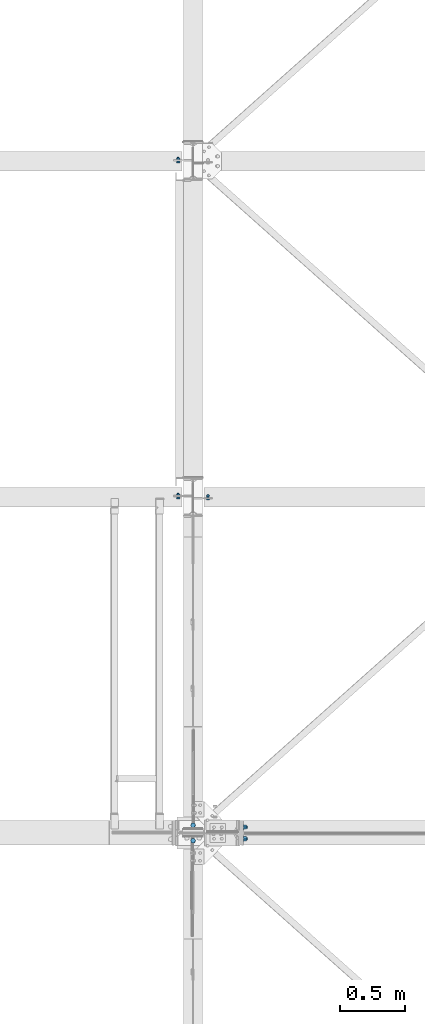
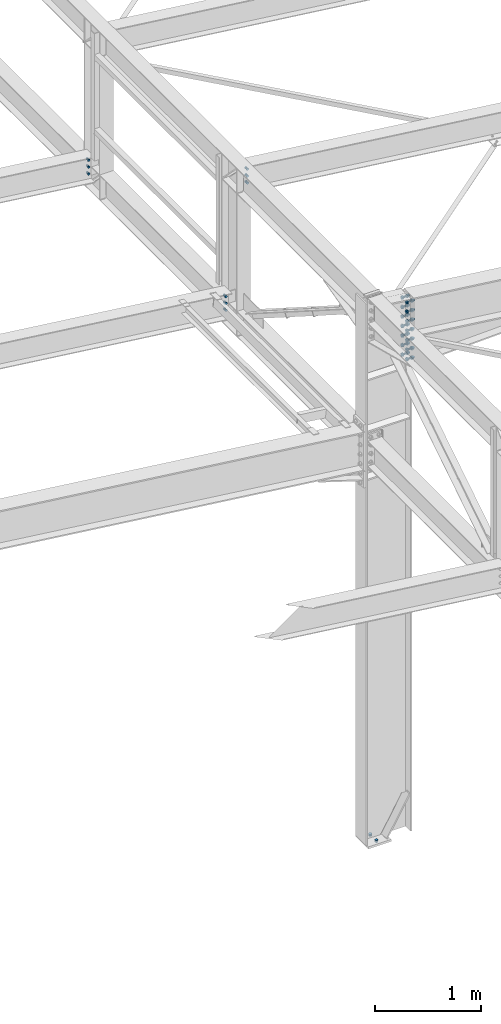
# One storey, part 262 of 3134: 5 mechanical fasteners, 5 elements without a shape of their own.
"""IFC2X3 building model written with IfcOpenShell, lengths in millimetres."""

import ifcopenshell
import ifcopenshell.guid

model = None  # the IFC model being written
_history = None  # IfcOwnerHistory: only IFC2X3 demands one
_inside = {}  # id of a spatial element -> (the spatial element, [elements in it])
_under = {}  # id of a project, library or spatial element -> (it, [spatial elements below it])
_declared = {}  # id of a project -> (the project, [libraries it declares])
_typed = {}  # id of a type object -> (the type object, [elements of that type])
_made_of = {}  # id of a material, layer set ... -> (it, [elements and type objects made of it])


def new_model(schema):
    """Start an empty IFC model of exactly this schema.

    Asked for "IFC4X3", IfcOpenShell would pick the latest addendum, in which some entities
    have other attributes; the version numbers below select the first issue.
    IFC2X3 requires an IfcOwnerHistory on every rooted entity: one is made here for all.
    """
    global model, _history
    if schema == "IFC4X3":
        model = ifcopenshell.file(schema_version=(4, 3, 0, 0))
    else:
        model = ifcopenshell.file(schema=schema)
    _inside.clear()
    _under.clear()
    _declared.clear()
    _typed.clear()
    _made_of.clear()
    _history = None
    if model.schema == "IFC2X3":
        org = make("IfcOrganization", Name="unknown")
        user = make(
            "IfcPersonAndOrganization",
            ThePerson=make("IfcPerson", FamilyName="unknown"),
            TheOrganization=org,
        )
        app = make(
            "IfcApplication",
            ApplicationDeveloper=org,
            Version="unknown",
            ApplicationFullName="unknown",
            ApplicationIdentifier="unknown",
        )
        _history = make(
            "IfcOwnerHistory",
            OwningUser=user,
            OwningApplication=app,
            ChangeAction="ADDED",
            CreationDate=0,
        )
    return model


def make(cls, **values):
    """One entity of the class cls with the attributes given. An attribute that is None is left unset."""
    return model.create_entity(
        cls, **{name: value for name, value in values.items() if value is not None}
    )


def rooted(cls, **values):
    """An entity with a GlobalId (a new one), such as an element, a storey or a relation."""
    return make(cls, GlobalId=ifcopenshell.guid.new(), OwnerHistory=_history, **values)


def si_unit(unit_type, name, prefix=None):
    """IfcSIUnit, for example si_unit("LENGTHUNIT", "METRE", prefix="MILLI")."""
    return make("IfcSIUnit", UnitType=unit_type, Prefix=prefix, Name=name)


def assignment(units):
    """IfcUnitAssignment: the units of a project."""
    return None if units is None else make("IfcUnitAssignment", Units=units)


def point(xyz):
    """IfcCartesianPoint."""
    return None if xyz is None else make("IfcCartesianPoint", Coordinates=xyz)


def direction(xyz):
    """IfcDirection."""
    return None if xyz is None else make("IfcDirection", DirectionRatios=xyz)


def frame(location, z_axis=None, x_axis=None):
    """IfcAxis2Placement3D, a coordinate frame: its origin and axes. An axis left out is left unset."""
    return make(
        "IfcAxis2Placement3D",
        Location=point(location),
        Axis=direction(z_axis),
        RefDirection=direction(x_axis),
    )


def origin_with_axes():
    """The frame at (0, 0, 0) with the z axis (0, 0, 1) and the x axis (1, 0, 0) written out."""
    return frame((0.0, 0.0, 0.0), z_axis=(0.0, 0.0, 1.0), x_axis=(1.0, 0.0, 0.0))


def place(relative_to, where):
    """IfcLocalPlacement: puts the frame where relative to a parent placement (None: the world)."""
    return make(
        "IfcLocalPlacement", PlacementRelTo=relative_to, RelativePlacement=where
    )


def context(
    kind, dimensions, precision=None, world=None, true_north=None, identifier=None
):
    """IfcGeometricRepresentationContext, for example the 3D "Model" context."""
    return make(
        "IfcGeometricRepresentationContext",
        ContextIdentifier=identifier,
        ContextType=kind,
        CoordinateSpaceDimension=dimensions,
        Precision=precision,
        WorldCoordinateSystem=world,
        TrueNorth=true_north,
    )


def subcontext(parent, identifier, kind, view, scale=None):
    """IfcGeometricRepresentationSubContext, for example "Body" below "Model"."""
    return make(
        "IfcGeometricRepresentationSubContext",
        ContextIdentifier=identifier,
        ContextType=kind,
        ParentContext=parent,
        TargetScale=scale,
        TargetView=view,
    )


def project(units=None, contexts=None):
    """IfcProject with its units and contexts."""
    return rooted(
        "IfcProject",
        Name="project",
        RepresentationContexts=contexts,
        UnitsInContext=assignment(units),
    )


def spatial(cls, under=None, at=None, **own):
    """A site, building, storey or space (cls), placed at a placement, below another one or the project."""
    s = rooted(cls, ObjectPlacement=at, **own)
    if under is not None:
        _under.setdefault(under.id(), (under, []))[1].append(s)
    return s


def faces_of(points, faces, orient=None, outer=None):
    """IfcFace entities. A face is a list of loops; a loop is a list of indices into points, from 0.

    orient and outer hold one flag for each loop. By default every Orientation is true, the
    first loop of a face is its IfcFaceOuterBound and the others are IfcFaceBound.
    """
    made = []
    for i, loops in enumerate(faces):
        bounds = []
        for j, loop in enumerate(loops):
            is_outer = j == 0 if outer is None else outer[i][j]
            bounds.append(
                make(
                    "IfcFaceOuterBound" if is_outer else "IfcFaceBound",
                    Bound=make("IfcPolyLoop", Polygon=[points[k] for k in loop]),
                    Orientation=True if orient is None else orient[i][j],
                )
            )
        made.append(make("IfcFace", Bounds=bounds))
    return made


def faceted_brep(points, faces, orient=None, outer=None, voids=None):
    """IfcFacetedBrep: a solid bounded by flat faces; with voids (closed shells), ...WithVoids."""
    shared = [point(p) for p in points]
    hull = make("IfcClosedShell", CfsFaces=faces_of(shared, faces, orient, outer))
    if voids is None:
        return make("IfcFacetedBrep", Outer=hull)
    return make(
        "IfcFacetedBrepWithVoids",
        Outer=hull,
        Voids=[
            make(cls, CfsFaces=faces_of(shared, fs, o, b)) for cls, fs, o, b in voids
        ],
    )


def shape(context_of_items, identifier, shape_type, items):
    """IfcShapeRepresentation: the items that make up one representation, for example the "Body"."""
    return make(
        "IfcShapeRepresentation",
        ContextOfItems=context_of_items,
        RepresentationIdentifier=identifier,
        RepresentationType=shape_type,
        Items=items,
    )


def source(mapping_origin, context_of_items, identifier, shape_type, items):
    """IfcRepresentationMap: a shape defined once, which mapped items show again and again."""
    return make(
        "IfcRepresentationMap",
        MappingOrigin=mapping_origin,
        MappedRepresentation=shape(context_of_items, identifier, shape_type, items),
    )


def transform(
    local_origin,
    x_axis=None,
    y_axis=None,
    z_axis=None,
    scale=None,
    scale2=None,
    scale3=None,
    uniform=True,
):
    """IfcCartesianTransformationOperator3D, or its non-uniform kind. x_axis, y_axis, z_axis: its Axis1, 2, 3."""
    if uniform:
        return make(
            "IfcCartesianTransformationOperator3D",
            Axis1=direction(x_axis),
            Axis2=direction(y_axis),
            LocalOrigin=point(local_origin),
            Scale=scale,
            Axis3=direction(z_axis),
        )
    return make(
        "IfcCartesianTransformationOperator3DnonUniform",
        Axis1=direction(x_axis),
        Axis2=direction(y_axis),
        LocalOrigin=point(local_origin),
        Scale=scale,
        Axis3=direction(z_axis),
        Scale2=scale2,
        Scale3=scale3,
    )


def mapped(mapping_source, mapping_target):
    """IfcMappedItem: shows the shape of a source again, moved by a transform."""
    return make(
        "IfcMappedItem", MappingSource=mapping_source, MappingTarget=mapping_target
    )


def material(Name=None, Category=None):
    """IfcMaterial."""
    return make("IfcMaterial", Name=Name, Category=Category)


def made_of(thing, what):
    """Note that an element or type object is made of a material, layer set ...; save() writes the relation."""
    if what is not None:
        _made_of.setdefault(what.id(), (what, []))[1].append(thing)
    return thing


def type_object(cls, material=None, **own):
    """A type object (cls), such as IfcWallType, which elements share."""
    return made_of(rooted(cls, **own), material)


def element(
    cls,
    number,
    at=None,
    inside=None,
    cuts=None,
    type_object=None,
    material=None,
    context=None,
    identifier="Body",
    shape_type=None,
    held_by="IfcProductDefinitionShape",
    body=None,
    shapes=None,
    **own,
):
    """One element of the class cls, such as IfcWall. Its Tag is "e" and its number.

    at: its placement. inside: the storey or other place that contains it. cuts: it is an
    opening in that element (IfcRelVoidsElement). A single representation is given by context,
    identifier, shape_type and body (its items); several are given by shapes. held_by: the class
    of the entity that holds the representations. save() writes the other relations.
    """
    e = rooted(cls, Tag="e%d" % number, ObjectPlacement=at, **own)
    if body is not None:
        shapes = [shape(context, identifier, shape_type, body)]
    if shapes is not None:
        e.Representation = make(held_by, Representations=shapes)
    if inside is not None:
        _inside.setdefault(inside.id(), (inside, []))[1].append(e)
    if cuts is not None:
        rooted(
            "IfcRelVoidsElement", RelatingBuildingElement=cuts, RelatedOpeningElement=e
        )
    if type_object is not None:
        _typed.setdefault(type_object.id(), (type_object, []))[1].append(e)
    return made_of(e, material)


def aggregate(whole, parts):
    """IfcRelAggregates: a whole, such as a stair, and the parts it consists of."""
    return rooted("IfcRelAggregates", RelatingObject=whole, RelatedObjects=parts)


def save(model, path):
    """Write the relations noted so far, then the file.

    IfcRelAggregates (storeys below a building ...), IfcRelContainedInSpatialStructure (elements
    in a storey), IfcRelDefinesByType, IfcRelAssociatesMaterial and IfcRelDeclares: one each for
    every whole, place, type object, material and project.
    """
    for whole, parts in _under.values():
        aggregate(whole, parts)
    for where, things in _inside.values():
        rooted(
            "IfcRelContainedInSpatialStructure",
            RelatedElements=things,
            RelatingStructure=where,
        )
    for kind, things in _typed.values():
        rooted("IfcRelDefinesByType", RelatedObjects=things, RelatingType=kind)
    for what, things in _made_of.values():
        rooted("IfcRelAssociatesMaterial", RelatedObjects=things, RelatingMaterial=what)
    for by, libraries in _declared.values():
        rooted("IfcRelDeclares", RelatingContext=by, RelatedDefinitions=libraries)
    model.write(path)


model = new_model("IFC2X3")

# Units and contexts
model_context = context("Model", 3, precision=1e-05, world=origin_with_axes())
body_context = subcontext(model_context, "Body", "Model", "MODEL_VIEW")
ifc_project = project(units=[si_unit("LENGTHUNIT", "METRE", prefix="MILLI"), si_unit("AREAUNIT", "SQUARE_METRE"), si_unit("VOLUMEUNIT", "CUBIC_METRE"), si_unit("MASSUNIT", "GRAM", prefix="KILO"), si_unit("TIMEUNIT", "SECOND"), si_unit("PLANEANGLEUNIT", "RADIAN"), si_unit("SOLIDANGLEUNIT", "STERADIAN"), si_unit("THERMODYNAMICTEMPERATUREUNIT", "DEGREE_CELSIUS"), si_unit("LUMINOUSINTENSITYUNIT", "LUMEN")], contexts=[model_context])

# Site, building, storey
site_placement = place(None, origin_with_axes())
site = spatial("IfcSite", under=ifc_project, at=site_placement, CompositionType="ELEMENT")
building_placement = place(site_placement, origin_with_axes())
building = spatial("IfcBuilding", under=site, at=building_placement, Name="Undefined", CompositionType="ELEMENT")
storey_placement = place(building_placement, origin_with_axes())
storey = spatial("IfcBuildingStorey", under=building, at=storey_placement, Name="Undefined", CompositionType="ELEMENT", Elevation=0.0)

# Assembly, mechanical fastener
assembly_1_placement = place(storey_placement, origin_with_axes())
assembly_1 = element("IfcElementAssembly", 1, at=assembly_1_placement, inside=storey, Name="IPE450", AssemblyPlace="NOTDEFINED", PredefinedType="RIGID_FRAME")
ifc_material_1 = material(Name="HR10.9")
mechanical_fastener_type = type_object("IfcMechanicalFastenerType", Name="Bolt assembly")
shared_shape_1 = source(origin_with_axes(), body_context, "Body", "Brep", [
    faceted_brep([(18.475208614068, -33.599999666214, 0.0), (9.23760430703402, -33.599999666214, 16.0), (-9.23760430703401, -33.599999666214, 16.0), (-18.475208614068, -33.599999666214, 2.2625605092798e-15), (-9.23760430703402, -33.599999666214, -16.0), (9.237604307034, -33.599999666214, -16.0), (9.237604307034, -19.7000000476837, -16.0), (-9.23760430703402, -19.7000000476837, -16.0), (-18.475208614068, -19.7000000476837, 2.2625605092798e-15), (-9.23760430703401, -19.7000000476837, 16.0), (9.23760430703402, -19.7000000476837, 16.0), (18.475208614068, -19.7000000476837, 0.0), (10.0, -19.7000000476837, 0.0), (8.66025403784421, -19.7000000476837, 5.0000000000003), (4.9999999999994, -19.7000000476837, 8.66025403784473), (-1.03633598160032e-12, -19.7000000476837, 10.0), (-5.00000000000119, -19.7000000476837, 8.6602540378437), (-8.66025403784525, -19.7000000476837, 4.99999999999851), (-10.0, -19.7000000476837, -2.07267196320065e-12), (-8.66025403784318, -19.7000000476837, -5.00000000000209), (-4.99999999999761, -19.7000000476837, -8.66025403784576), (3.09790571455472e-12, -19.7000000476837, -10.0), (5.00000000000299, -19.7000000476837, -8.66025403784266), (8.66025403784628, -19.7000000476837, -4.99999999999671), (8.66025403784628, 55.2999999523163, -4.99999999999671), (5.00000000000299, 55.2999999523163, -8.66025403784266), (3.09790571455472e-12, 55.2999999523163, -10.0), (-4.99999999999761, 55.2999999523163, -8.66025403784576), (-8.66025403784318, 55.2999999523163, -5.00000000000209), (-10.0, 55.2999999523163, -2.07267196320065e-12), (-8.66025403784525, 55.2999999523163, 4.99999999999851), (-5.00000000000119, 55.2999999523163, 8.6602540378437), (-1.03633598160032e-12, 55.2999999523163, 10.0), (4.9999999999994, 55.2999999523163, 8.66025403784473), (8.66025403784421, 55.2999999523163, 5.0000000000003), (10.0, 55.2999999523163, 0.0), (22.0, -19.7000000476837, 0.0), (19.0525588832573, -19.7000000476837, 11.0000000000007), (10.9999999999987, -19.7000000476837, 19.0525588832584), (-2.27993915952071e-12, -19.7000000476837, 22.0), (-11.0000000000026, -19.7000000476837, 19.0525588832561), (-19.0525588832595, -19.7000000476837, 10.9999999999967), (-22.0, -19.7000000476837, -4.55987831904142e-12), (-19.052558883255, -19.7000000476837, -11.0000000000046), (-10.9999999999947, -19.7000000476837, -19.0525588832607), (6.81539257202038e-12, -19.7000000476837, -22.0), (11.0000000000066, -19.7000000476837, -19.0525588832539), (19.0525588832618, -19.7000000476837, -10.9999999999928), (19.0525588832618, -16.0, -10.9999999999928), (11.0000000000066, -16.0, -19.0525588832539), (6.81539257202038e-12, -16.0, -22.0), (-10.9999999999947, -16.0, -19.0525588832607), (-19.052558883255, -16.0, -11.0000000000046), (-22.0, -16.0, -4.55987831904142e-12), (-19.0525588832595, -16.0, 10.9999999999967), (-11.0000000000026, -16.0, 19.0525588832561), (-2.27993915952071e-12, -16.0, 22.0), (10.9999999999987, -16.0, 19.0525588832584), (19.0525588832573, -16.0, 11.0000000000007), (22.0, -16.0, 0.0), (22.0, 25.0, 0.0), (19.0525588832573, 25.0, 11.0000000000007), (10.9999999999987, 25.0, 19.0525588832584), (-2.27993915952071e-12, 25.0, 22.0), (-11.0000000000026, 25.0, 19.0525588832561), (-19.0525588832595, 25.0, 10.9999999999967), (-22.0, 25.0, -4.55987831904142e-12), (-19.052558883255, 25.0, -11.0000000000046), (-10.9999999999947, 25.0, -19.0525588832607), (6.81539257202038e-12, 25.0, -22.0), (11.0000000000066, 25.0, -19.0525588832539), (19.0525588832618, 25.0, -10.9999999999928), (19.0525588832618, 28.7000000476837, -10.9999999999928), (11.0000000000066, 28.7000000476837, -19.0525588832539), (6.81539257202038e-12, 28.7000000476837, -22.0), (-10.9999999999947, 28.7000000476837, -19.0525588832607), (-19.052558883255, 28.7000000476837, -11.0000000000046), (-22.0, 28.7000000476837, -4.55987831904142e-12), (-19.0525588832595, 28.7000000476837, 10.9999999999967), (-11.0000000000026, 28.7000000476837, 19.0525588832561), (-2.27993915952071e-12, 28.7000000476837, 22.0), (10.9999999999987, 28.7000000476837, 19.0525588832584), (19.0525588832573, 28.7000000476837, 11.0000000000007), (22.0, 28.7000000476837, 0.0), (18.475208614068, 28.7000000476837, 0.0), (9.23760430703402, 28.7000000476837, 16.0), (-9.23760430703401, 28.7000000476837, 16.0), (-18.475208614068, 28.7000000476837, 2.2625605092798e-15), (-9.23760430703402, 28.7000000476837, -16.0), (9.237604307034, 28.7000000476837, -16.0), (9.237604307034, 47.2499992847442, -16.0), (-9.23760430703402, 47.2499992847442, -16.0), (-18.475208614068, 47.2499992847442, 2.2625605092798e-15), (-9.23760430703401, 47.2499992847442, 16.0), (9.23760430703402, 47.2499992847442, 16.0), (18.475208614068, 47.2499992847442, 0.0)], [[[0, 1, 2, 3, 4, 5]], [[6, 7, 8, 9, 10, 11]], [[0, 11, 10, 1]], [[1, 10, 9, 2]], [[2, 9, 8, 3]], [[3, 8, 7, 4]], [[4, 7, 6, 5]], [[5, 6, 11, 0]], [[12, 13, 14, 15, 16, 17, 18, 19, 20, 21, 22, 23]], [[24, 25, 26, 27, 28, 29, 30, 31, 32, 33, 34, 35]], [[12, 35, 34, 13]], [[13, 34, 33, 14]], [[14, 33, 32, 15]], [[15, 32, 31, 16]], [[16, 31, 30, 17]], [[17, 30, 29, 18]], [[18, 29, 28, 19]], [[19, 28, 27, 20]], [[20, 27, 26, 21]], [[21, 26, 25, 22]], [[22, 25, 24, 23]], [[23, 24, 35, 12]], [[36, 37, 38, 39, 40, 41, 42, 43, 44, 45, 46, 47]], [[48, 49, 50, 51, 52, 53, 54, 55, 56, 57, 58, 59]], [[36, 59, 58, 37]], [[37, 58, 57, 38]], [[38, 57, 56, 39]], [[39, 56, 55, 40]], [[40, 55, 54, 41]], [[41, 54, 53, 42]], [[42, 53, 52, 43]], [[43, 52, 51, 44]], [[44, 51, 50, 45]], [[45, 50, 49, 46]], [[46, 49, 48, 47]], [[47, 48, 59, 36]], [[60, 61, 62, 63, 64, 65, 66, 67, 68, 69, 70, 71]], [[72, 73, 74, 75, 76, 77, 78, 79, 80, 81, 82, 83]], [[60, 83, 82, 61]], [[61, 82, 81, 62]], [[62, 81, 80, 63]], [[63, 80, 79, 64]], [[64, 79, 78, 65]], [[65, 78, 77, 66]], [[66, 77, 76, 67]], [[67, 76, 75, 68]], [[68, 75, 74, 69]], [[69, 74, 73, 70]], [[70, 73, 72, 71]], [[71, 72, 83, 60]], [[84, 85, 86, 87, 88, 89]], [[90, 91, 92, 93, 94, 95]], [[84, 95, 94, 85]], [[85, 94, 93, 86]], [[86, 93, 92, 87]], [[87, 92, 91, 88]], [[88, 91, 90, 89]], [[89, 90, 95, 84]]]),
    faceted_brep([(11.0, -15.9, 0.0), (9.52627944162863, -15.9, 5.50000000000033), (5.49999999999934, -15.9, 9.5262794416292), (-1.13996957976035e-12, -15.9, 11.0), (-5.50000000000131, -15.9, 9.52627944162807), (-9.52627944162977, -15.9, 5.49999999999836), (-11.0, -15.9, -2.27993915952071e-12), (-9.5262794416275, -15.9, -5.5000000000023), (-5.49999999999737, -15.9, -9.52627944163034), (3.40769628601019e-12, -15.9, -11.0), (5.50000000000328, -15.9, -9.52627944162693), (9.52627944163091, -15.9, -5.49999999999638), (9.52627944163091, 0.0999999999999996, -5.49999999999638), (5.50000000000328, 0.0999999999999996, -9.52627944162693), (3.40769628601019e-12, 0.0999999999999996, -11.0), (-5.49999999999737, 0.0999999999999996, -9.52627944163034), (-9.5262794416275, 0.0999999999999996, -5.5000000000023), (-11.0, 0.0999999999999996, -2.27993915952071e-12), (-9.52627944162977, 0.0999999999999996, 5.49999999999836), (-5.50000000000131, 0.0999999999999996, 9.52627944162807), (-1.13996957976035e-12, 0.0999999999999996, 11.0), (5.49999999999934, 0.0999999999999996, 9.5262794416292), (9.52627944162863, 0.0999999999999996, 5.50000000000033), (11.0, 0.0999999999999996, 0.0), (11.0, -0.1, 0.0), (9.52627944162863, -0.1, 5.50000000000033), (5.49999999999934, -0.1, 9.5262794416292), (-1.13996957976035e-12, -0.1, 11.0), (-5.50000000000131, -0.1, 9.52627944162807), (-9.52627944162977, -0.1, 5.49999999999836), (-11.0, -0.1, -2.27993915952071e-12), (-9.5262794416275, -0.1, -5.5000000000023), (-5.49999999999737, -0.1, -9.52627944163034), (3.40769628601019e-12, -0.1, -11.0), (5.50000000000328, -0.1, -9.52627944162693), (9.52627944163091, -0.1, -5.49999999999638), (9.52627944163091, 25.0, -5.49999999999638), (5.50000000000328, 25.0, -9.52627944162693), (3.40769628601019e-12, 25.0, -11.0), (-5.49999999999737, 25.0, -9.52627944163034), (-9.5262794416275, 25.0, -5.5000000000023), (-11.0, 25.0, -2.27993915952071e-12), (-9.52627944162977, 25.0, 5.49999999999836), (-5.50000000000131, 25.0, 9.52627944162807), (-1.13996957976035e-12, 25.0, 11.0), (5.49999999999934, 25.0, 9.5262794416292), (9.52627944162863, 25.0, 5.50000000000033), (11.0, 25.0, 0.0)], [[[0, 1, 2, 3, 4, 5, 6, 7, 8, 9, 10, 11]], [[12, 13, 14, 15, 16, 17, 18, 19, 20, 21, 22, 23]], [[0, 23, 22, 1]], [[1, 22, 21, 2]], [[2, 21, 20, 3]], [[3, 20, 19, 4]], [[4, 19, 18, 5]], [[5, 18, 17, 6]], [[6, 17, 16, 7]], [[7, 16, 15, 8]], [[8, 15, 14, 9]], [[9, 14, 13, 10]], [[10, 13, 12, 11]], [[11, 12, 23, 0]], [[24, 25, 26, 27, 28, 29, 30, 31, 32, 33, 34, 35]], [[36, 37, 38, 39, 40, 41, 42, 43, 44, 45, 46, 47]], [[24, 47, 46, 25]], [[25, 46, 45, 26]], [[26, 45, 44, 27]], [[27, 44, 43, 28]], [[28, 43, 42, 29]], [[29, 42, 41, 30]], [[30, 41, 40, 31]], [[31, 40, 39, 32]], [[32, 39, 38, 33]], [[33, 38, 37, 34]], [[34, 37, 36, 35]], [[35, 36, 47, 24]]]),
])
mechanical_fastener_1_placement = place(assembly_1_placement, frame((56240.0, 40250.0, 5711.36541521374), z_axis=(0.0, -1.0, 0.0), x_axis=(0.0, 0.0, -1.0)))
mechanical_fastener_1 = element("IfcMechanicalFastener", 2, at=mechanical_fastener_1_placement, type_object=mechanical_fastener_type, material=ifc_material_1, Name="Bolt assembly", NominalDiameter=20.0, NominalLength=75.0, context=body_context, shape_type="MappedRepresentation", body=[
    mapped(shared_shape_1, transform((0.0, 0.0, -45.0))),
    mapped(shared_shape_1, transform((0.0, 0.0, 45.0))),
    mapped(shared_shape_1, transform((110.0, 0.0, -45.0))),
    mapped(shared_shape_1, transform((110.0, 0.0, 45.0))),
    mapped(shared_shape_1, transform((220.0, 0.0, -45.0))),
    mapped(shared_shape_1, transform((220.0, 0.0, 45.0))),
    mapped(shared_shape_1, transform((330.0, 0.0, -45.0))),
    mapped(shared_shape_1, transform((330.0, 0.0, 45.0))),
    mapped(shared_shape_1, transform((440.0, 0.0, -45.0))),
    mapped(shared_shape_1, transform((440.0, 0.0, 45.0))),
    mapped(shared_shape_1, transform((550.0, 0.0, -45.0))),
    mapped(shared_shape_1, transform((550.0, 0.0, 45.0))),
    mapped(shared_shape_1, transform((660.0, 0.0, -45.0))),
    mapped(shared_shape_1, transform((660.0, 0.0, 45.0))),
])
aggregate(assembly_1, [mechanical_fastener_1])

assembly_2_placement = place(storey_placement, origin_with_axes())
assembly_2 = element("IfcElementAssembly", 3, at=assembly_2_placement, inside=storey, Name="300", AssemblyPlace="NOTDEFINED", PredefinedType="RIGID_FRAME")
ifc_material_2 = material(Name="8.8")
shared_shape_2 = source(origin_with_axes(), body_context, "Body", "Brep", [
    faceted_brep([(13.856406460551, -13.0499999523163, 0.0), (6.92820323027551, -13.0499999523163, 12.0), (-6.92820323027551, -13.0499999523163, 12.0), (-13.856406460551, -13.0499999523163, 1.69692038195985e-15), (-6.92820323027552, -13.0499999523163, -12.0), (6.9282032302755, -13.0499999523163, -12.0), (6.9282032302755, -3.04999995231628, -12.0), (-6.92820323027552, -3.04999995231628, -12.0), (-13.856406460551, -3.04999995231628, 1.69692038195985e-15), (-6.92820323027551, -3.04999995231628, 12.0), (6.92820323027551, -3.04999995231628, 12.0), (13.856406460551, -3.04999995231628, 0.0), (8.0, -3.04999995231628, 0.0), (6.92820323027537, -3.04999995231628, 4.00000000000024), (3.99999999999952, -3.04999995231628, 6.92820323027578), (-8.29068785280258e-13, -3.04999995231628, 8.0), (-4.00000000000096, -3.04999995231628, 6.92820323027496), (-6.9282032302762, -3.04999995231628, 3.99999999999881), (-8.0, -3.04999995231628, -1.65813757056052e-12), (-6.92820323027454, -3.04999995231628, -4.00000000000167), (-3.99999999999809, -3.04999995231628, -6.92820323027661), (2.47832457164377e-12, -3.04999995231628, -8.0), (4.00000000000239, -3.04999995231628, -6.92820323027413), (6.92820323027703, -3.04999995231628, -3.99999999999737), (6.92820323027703, 31.9500000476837, -3.99999999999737), (4.00000000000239, 31.9500000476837, -6.92820323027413), (2.47832457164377e-12, 31.9500000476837, -8.0), (-3.99999999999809, 31.9500000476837, -6.92820323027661), (-6.92820323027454, 31.9500000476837, -4.00000000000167), (-8.0, 31.9500000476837, -1.65813757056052e-12), (-6.9282032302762, 31.9500000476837, 3.99999999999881), (-4.00000000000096, 31.9500000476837, 6.92820323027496), (-8.29068785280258e-13, 31.9500000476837, 8.0), (3.99999999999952, 31.9500000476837, 6.92820323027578), (6.92820323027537, 31.9500000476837, 4.00000000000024), (8.0, 31.9500000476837, 0.0), (13.856406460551, 13.0500000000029, 0.0), (6.92820323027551, 13.0500000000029, 12.0), (-6.92820323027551, 13.0500000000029, 12.0), (-13.856406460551, 13.0500000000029, 1.69692038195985e-15), (-6.92820323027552, 13.0500000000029, -12.0), (6.9282032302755, 13.0500000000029, -12.0), (6.9282032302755, 26.0500000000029, -12.0), (-6.92820323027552, 26.0500000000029, -12.0), (-13.856406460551, 26.0500000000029, 1.69692038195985e-15), (-6.92820323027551, 26.0500000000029, 12.0), (6.92820323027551, 26.0500000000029, 12.0), (13.856406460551, 26.0500000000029, 0.0)], [[[0, 1, 2, 3, 4, 5]], [[6, 7, 8, 9, 10, 11]], [[0, 11, 10, 1]], [[1, 10, 9, 2]], [[2, 9, 8, 3]], [[3, 8, 7, 4]], [[4, 7, 6, 5]], [[5, 6, 11, 0]], [[12, 13, 14, 15, 16, 17, 18, 19, 20, 21, 22, 23]], [[24, 25, 26, 27, 28, 29, 30, 31, 32, 33, 34, 35]], [[12, 35, 34, 13]], [[13, 34, 33, 14]], [[14, 33, 32, 15]], [[15, 32, 31, 16]], [[16, 31, 30, 17]], [[17, 30, 29, 18]], [[18, 29, 28, 19]], [[19, 28, 27, 20]], [[20, 27, 26, 21]], [[21, 26, 25, 22]], [[22, 25, 24, 23]], [[23, 24, 35, 12]], [[36, 37, 38, 39, 40, 41]], [[42, 43, 44, 45, 46, 47]], [[36, 47, 46, 37]], [[37, 46, 45, 38]], [[38, 45, 44, 39]], [[39, 44, 43, 40]], [[40, 43, 42, 41]], [[41, 42, 47, 36]]]),
    faceted_brep([(9.0, 2.95000000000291, 0.0), (7.79422863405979, 2.95000000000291, 4.50000000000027), (4.49999999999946, 2.95000000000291, 7.79422863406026), (-9.3270238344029e-13, 2.95000000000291, 9.0), (-4.50000000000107, 2.95000000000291, 7.79422863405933), (-7.79422863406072, 2.95000000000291, 4.49999999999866), (-9.0, 2.95000000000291, -1.86540476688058e-12), (-7.79422863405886, 2.95000000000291, -4.50000000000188), (-4.49999999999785, 2.95000000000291, -7.79422863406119), (2.78811514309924e-12, 2.95000000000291, -9.0), (4.50000000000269, 2.95000000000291, -7.7942286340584), (7.79422863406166, 2.95000000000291, -4.49999999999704), (7.79422863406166, 13.0500000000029, -4.49999999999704), (4.50000000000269, 13.0500000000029, -7.7942286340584), (2.78811514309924e-12, 13.0500000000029, -9.0), (-4.49999999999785, 13.0500000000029, -7.79422863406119), (-7.79422863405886, 13.0500000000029, -4.50000000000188), (-9.0, 13.0500000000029, -1.86540476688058e-12), (-7.79422863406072, 13.0500000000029, 4.49999999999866), (-4.50000000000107, 13.0500000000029, 7.79422863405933), (-9.3270238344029e-13, 13.0500000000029, 9.0), (4.49999999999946, 13.0500000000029, 7.79422863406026), (7.79422863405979, 13.0500000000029, 4.50000000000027), (9.0, 13.0500000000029, 0.0), (9.0, -2.94999995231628, 0.0), (7.79422863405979, -2.94999995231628, 4.50000000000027), (4.49999999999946, -2.94999995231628, 7.79422863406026), (-9.3270238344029e-13, -2.94999995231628, 9.0), (-4.50000000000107, -2.94999995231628, 7.79422863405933), (-7.79422863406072, -2.94999995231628, 4.49999999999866), (-9.0, -2.94999995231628, -1.86540476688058e-12), (-7.79422863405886, -2.94999995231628, -4.50000000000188), (-4.49999999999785, -2.94999995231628, -7.79422863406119), (2.78811514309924e-12, -2.94999995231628, -9.0), (4.50000000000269, -2.94999995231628, -7.7942286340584), (7.79422863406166, -2.94999995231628, -4.49999999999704), (7.79422863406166, 3.14999995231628, -4.49999999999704), (4.50000000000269, 3.14999995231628, -7.7942286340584), (2.78811514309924e-12, 3.14999995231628, -9.0), (-4.49999999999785, 3.14999995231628, -7.79422863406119), (-7.79422863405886, 3.14999995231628, -4.50000000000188), (-9.0, 3.14999995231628, -1.86540476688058e-12), (-7.79422863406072, 3.14999995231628, 4.49999999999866), (-4.50000000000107, 3.14999995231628, 7.79422863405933), (-9.3270238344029e-13, 3.14999995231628, 9.0), (4.49999999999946, 3.14999995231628, 7.79422863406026), (7.79422863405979, 3.14999995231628, 4.50000000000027), (9.0, 3.14999995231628, 0.0)], [[[0, 1, 2, 3, 4, 5, 6, 7, 8, 9, 10, 11]], [[12, 13, 14, 15, 16, 17, 18, 19, 20, 21, 22, 23]], [[0, 23, 22, 1]], [[1, 22, 21, 2]], [[2, 21, 20, 3]], [[3, 20, 19, 4]], [[4, 19, 18, 5]], [[5, 18, 17, 6]], [[6, 17, 16, 7]], [[7, 16, 15, 8]], [[8, 15, 14, 9]], [[9, 14, 13, 10]], [[10, 13, 12, 11]], [[11, 12, 23, 0]], [[24, 25, 26, 27, 28, 29, 30, 31, 32, 33, 34, 35]], [[36, 37, 38, 39, 40, 41, 42, 43, 44, 45, 46, 47]], [[24, 47, 46, 25]], [[25, 46, 45, 26]], [[26, 45, 44, 27]], [[27, 44, 43, 28]], [[28, 43, 42, 29]], [[29, 42, 41, 30]], [[30, 41, 40, 31]], [[31, 40, 39, 32]], [[32, 39, 38, 33]], [[33, 38, 37, 34]], [[34, 37, 36, 35]], [[35, 36, 47, 24]]]),
])
mechanical_fastener_2_placement = place(assembly_2_placement, frame((55760.0, 45450.0, 4337.44269270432), z_axis=(1.0, 0.0, 0.0), x_axis=(0.0, 0.0, -1.0)))
mechanical_fastener_2 = element("IfcMechanicalFastener", 4, at=mechanical_fastener_2_placement, type_object=mechanical_fastener_type, material=ifc_material_2, Name="Bolt assembly", NominalDiameter=16.0, NominalLength=35.0, context=body_context, shape_type="MappedRepresentation", body=[
    mapped(shared_shape_2, transform((0.0, 0.0, 0.0))),
    mapped(shared_shape_2, transform((80.0, 0.0, 0.0))),
    mapped(shared_shape_2, transform((160.0, 0.0, 0.0))),
])
aggregate(assembly_2, [mechanical_fastener_2])

assembly_3_placement = place(storey_placement, origin_with_axes())
assembly_3 = element("IfcElementAssembly", 5, at=assembly_3_placement, inside=storey, Name="300", AssemblyPlace="NOTDEFINED", PredefinedType="RIGID_FRAME")
mechanical_fastener_3_placement = place(assembly_3_placement, frame((55760.0, 42850.0, 4337.44269270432), z_axis=(1.0, 0.0, 0.0), x_axis=(0.0, 0.0, -1.0)))
mechanical_fastener_3 = element("IfcMechanicalFastener", 6, at=mechanical_fastener_3_placement, type_object=mechanical_fastener_type, material=ifc_material_2, Name="Bolt assembly", NominalDiameter=16.0, NominalLength=35.0, context=body_context, shape_type="MappedRepresentation", body=[
    mapped(shared_shape_2, transform((0.0, 0.0, 0.0))),
    mapped(shared_shape_2, transform((80.0, 0.0, 0.0))),
    mapped(shared_shape_2, transform((160.0, 0.0, 0.0))),
])
aggregate(assembly_3, [mechanical_fastener_3])

assembly_4_placement = place(storey_placement, origin_with_axes())
assembly_4 = element("IfcElementAssembly", 7, at=assembly_4_placement, inside=storey, Name="300", AssemblyPlace="NOTDEFINED", PredefinedType="RIGID_FRAME")
shared_shape_3 = source(origin_with_axes(), body_context, "Body", "Brep", [
    faceted_brep([(13.856406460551, -23.0499999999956, 0.0), (6.92820323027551, -23.0499999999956, 12.0), (-6.92820323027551, -23.0499999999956, 12.0), (-13.856406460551, -23.0499999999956, 1.69692038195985e-15), (-6.92820323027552, -23.0499999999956, -12.0), (6.9282032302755, -23.0499999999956, -12.0), (6.9282032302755, -13.0499999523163, -12.0), (-6.92820323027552, -13.0499999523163, -12.0), (-13.856406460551, -13.0499999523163, 1.69692038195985e-15), (-6.92820323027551, -13.0499999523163, 12.0), (6.92820323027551, -13.0499999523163, 12.0), (13.856406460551, -13.0499999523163, 0.0), (8.0, -13.0499999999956, 0.0), (6.92820323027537, -13.0499999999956, 4.00000000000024), (3.99999999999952, -13.0499999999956, 6.92820323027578), (-8.29068785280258e-13, -13.0499999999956, 8.0), (-4.00000000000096, -13.0499999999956, 6.92820323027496), (-6.9282032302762, -13.0499999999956, 3.99999999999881), (-8.0, -13.0499999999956, -1.65813757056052e-12), (-6.92820323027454, -13.0499999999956, -4.00000000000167), (-3.99999999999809, -13.0499999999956, -6.92820323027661), (2.47832457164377e-12, -13.0499999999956, -8.0), (4.00000000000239, -13.0499999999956, -6.92820323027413), (6.92820323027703, -13.0499999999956, -3.99999999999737), (6.92820323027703, 21.9500000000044, -3.99999999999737), (4.00000000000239, 21.9500000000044, -6.92820323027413), (2.47832457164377e-12, 21.9500000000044, -8.0), (-3.99999999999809, 21.9500000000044, -6.92820323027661), (-6.92820323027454, 21.9500000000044, -4.00000000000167), (-8.0, 21.9500000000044, -1.65813757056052e-12), (-6.9282032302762, 21.9500000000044, 3.99999999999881), (-4.00000000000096, 21.9500000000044, 6.92820323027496), (-8.29068785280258e-13, 21.9500000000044, 8.0), (3.99999999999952, 21.9500000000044, 6.92820323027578), (6.92820323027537, 21.9500000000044, 4.00000000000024), (8.0, 21.9500000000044, 0.0), (13.856406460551, 3.04999995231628, 0.0), (6.92820323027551, 3.04999995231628, 12.0), (-6.92820323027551, 3.04999995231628, 12.0), (-13.856406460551, 3.04999995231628, 1.69692038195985e-15), (-6.92820323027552, 3.04999995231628, -12.0), (6.9282032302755, 3.04999995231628, -12.0), (6.9282032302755, 16.0499999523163, -12.0), (-6.92820323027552, 16.0499999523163, -12.0), (-13.856406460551, 16.0499999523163, 1.69692038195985e-15), (-6.92820323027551, 16.0499999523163, 12.0), (6.92820323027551, 16.0499999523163, 12.0), (13.856406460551, 16.0499999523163, 0.0)], [[[0, 1, 2, 3, 4, 5]], [[6, 7, 8, 9, 10, 11]], [[0, 11, 10, 1]], [[1, 10, 9, 2]], [[2, 9, 8, 3]], [[3, 8, 7, 4]], [[4, 7, 6, 5]], [[5, 6, 11, 0]], [[12, 13, 14, 15, 16, 17, 18, 19, 20, 21, 22, 23]], [[24, 25, 26, 27, 28, 29, 30, 31, 32, 33, 34, 35]], [[12, 35, 34, 13]], [[13, 34, 33, 14]], [[14, 33, 32, 15]], [[15, 32, 31, 16]], [[16, 31, 30, 17]], [[17, 30, 29, 18]], [[18, 29, 28, 19]], [[19, 28, 27, 20]], [[20, 27, 26, 21]], [[21, 26, 25, 22]], [[22, 25, 24, 23]], [[23, 24, 35, 12]], [[36, 37, 38, 39, 40, 41]], [[42, 43, 44, 45, 46, 47]], [[36, 47, 46, 37]], [[37, 46, 45, 38]], [[38, 45, 44, 39]], [[39, 44, 43, 40]], [[40, 43, 42, 41]], [[41, 42, 47, 36]]]),
    faceted_brep([(9.0, -12.9499999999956, 0.0), (7.79422863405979, -12.9499999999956, 4.50000000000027), (4.49999999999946, -12.9499999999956, 7.79422863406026), (-9.3270238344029e-13, -12.9499999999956, 9.0), (-4.50000000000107, -12.9499999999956, 7.79422863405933), (-7.79422863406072, -12.9499999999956, 4.49999999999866), (-9.0, -12.9499999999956, -1.86540476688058e-12), (-7.79422863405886, -12.9499999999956, -4.50000000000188), (-4.49999999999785, -12.9499999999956, -7.79422863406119), (2.78811514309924e-12, -12.9499999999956, -9.0), (4.50000000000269, -12.9499999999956, -7.7942286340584), (7.79422863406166, -12.9499999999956, -4.49999999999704), (7.79422863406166, -2.94999995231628, -4.49999999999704), (4.50000000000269, -2.94999995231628, -7.7942286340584), (2.78811514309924e-12, -2.94999995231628, -9.0), (-4.49999999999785, -2.94999995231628, -7.79422863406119), (-7.79422863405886, -2.94999995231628, -4.50000000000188), (-9.0, -2.94999995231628, -1.86540476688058e-12), (-7.79422863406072, -2.94999995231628, 4.49999999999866), (-4.50000000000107, -2.94999995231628, 7.79422863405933), (-9.3270238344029e-13, -2.94999995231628, 9.0), (4.49999999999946, -2.94999995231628, 7.79422863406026), (7.79422863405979, -2.94999995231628, 4.50000000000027), (9.0, -2.94999995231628, 0.0), (9.0, -3.14999995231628, 0.0), (7.79422863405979, -3.14999995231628, 4.50000000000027), (4.49999999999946, -3.14999995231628, 7.79422863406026), (-9.3270238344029e-13, -3.14999995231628, 9.0), (-4.50000000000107, -3.14999995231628, 7.79422863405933), (-7.79422863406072, -3.14999995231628, 4.49999999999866), (-9.0, -3.14999995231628, -1.86540476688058e-12), (-7.79422863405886, -3.14999995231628, -4.50000000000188), (-4.49999999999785, -3.14999995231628, -7.79422863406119), (2.78811514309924e-12, -3.14999995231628, -9.0), (4.50000000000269, -3.14999995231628, -7.7942286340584), (7.79422863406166, -3.14999995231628, -4.49999999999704), (7.79422863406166, 3.04999995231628, -4.49999999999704), (4.50000000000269, 3.04999995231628, -7.7942286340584), (2.78811514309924e-12, 3.04999995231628, -9.0), (-4.49999999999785, 3.04999995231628, -7.79422863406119), (-7.79422863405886, 3.04999995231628, -4.50000000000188), (-9.0, 3.04999995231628, -1.86540476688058e-12), (-7.79422863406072, 3.04999995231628, 4.49999999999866), (-4.50000000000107, 3.04999995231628, 7.79422863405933), (-9.3270238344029e-13, 3.04999995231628, 9.0), (4.49999999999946, 3.04999995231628, 7.79422863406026), (7.79422863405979, 3.04999995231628, 4.50000000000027), (9.0, 3.04999995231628, 0.0)], [[[0, 1, 2, 3, 4, 5, 6, 7, 8, 9, 10, 11]], [[12, 13, 14, 15, 16, 17, 18, 19, 20, 21, 22, 23]], [[0, 23, 22, 1]], [[1, 22, 21, 2]], [[2, 21, 20, 3]], [[3, 20, 19, 4]], [[4, 19, 18, 5]], [[5, 18, 17, 6]], [[6, 17, 16, 7]], [[7, 16, 15, 8]], [[8, 15, 14, 9]], [[9, 14, 13, 10]], [[10, 13, 12, 11]], [[11, 12, 23, 0]], [[24, 25, 26, 27, 28, 29, 30, 31, 32, 33, 34, 35]], [[36, 37, 38, 39, 40, 41, 42, 43, 44, 45, 46, 47]], [[24, 47, 46, 25]], [[25, 46, 45, 26]], [[26, 45, 44, 27]], [[27, 44, 43, 28]], [[28, 43, 42, 29]], [[29, 42, 41, 30]], [[30, 41, 40, 31]], [[31, 40, 39, 32]], [[32, 39, 38, 33]], [[33, 38, 37, 34]], [[34, 37, 36, 35]], [[35, 36, 47, 24]]]),
])
mechanical_fastener_4_placement = place(assembly_4_placement, frame((55990.0, 42850.0, 5735.35014950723), z_axis=(1.0, 0.0, 0.0), x_axis=(0.0, 0.0, -1.0)))
mechanical_fastener_4 = element("IfcMechanicalFastener", 8, at=mechanical_fastener_4_placement, type_object=mechanical_fastener_type, material=ifc_material_2, Name="Bolt assembly", NominalDiameter=16.0, NominalLength=35.0, context=body_context, shape_type="MappedRepresentation", body=[
    mapped(shared_shape_3, transform((0.0, 0.0, 0.0))),
    mapped(shared_shape_3, transform((80.0, 0.0, 0.0))),
    mapped(shared_shape_3, transform((160.0, 0.0, 0.0))),
])
aggregate(assembly_4, [mechanical_fastener_4])

assembly_5_placement = place(storey_placement, origin_with_axes())
assembly_5 = element("IfcElementAssembly", 9, at=assembly_5_placement, inside=storey, Name="IPE500", AssemblyPlace="NOTDEFINED", PredefinedType="RIGID_FRAME")
shared_shape_4 = source(origin_with_axes(), body_context, "Body", "Brep", [
    faceted_brep([(16.5, -25.0, 0.0), (14.289419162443, -25.0, 8.25000000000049), (8.24999999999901, -25.0, 14.2894191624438), (-1.70995436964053e-12, -25.0, 16.5), (-8.25000000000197, -25.0, 14.2894191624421), (-14.2894191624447, -25.0, 8.24999999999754), (-16.5, -25.0, -3.41990873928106e-12), (-14.2894191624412, -25.0, -8.25000000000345), (-8.24999999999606, -25.0, -14.2894191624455), (5.11154442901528e-12, -25.0, -16.5), (8.25000000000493, -25.0, -14.2894191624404), (14.2894191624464, -25.0, -8.24999999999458), (14.2894191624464, 0.1, -8.24999999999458), (8.25000000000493, 0.1, -14.2894191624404), (5.11154442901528e-12, 0.1, -16.5), (-8.24999999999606, 0.1, -14.2894191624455), (-14.2894191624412, 0.1, -8.25000000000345), (-16.5, 0.1, -3.41990873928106e-12), (-14.2894191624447, 0.1, 8.24999999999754), (-8.25000000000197, 0.1, 14.2894191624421), (-1.70995436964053e-12, 0.1, 16.5), (8.24999999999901, 0.1, 14.2894191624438), (14.289419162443, 0.1, 8.25000000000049), (16.5, 0.1, 0.0)], [[[0, 1, 2, 3, 4, 5, 6, 7, 8, 9, 10, 11]], [[12, 13, 14, 15, 16, 17, 18, 19, 20, 21, 22, 23]], [[0, 23, 22, 1]], [[1, 22, 21, 2]], [[2, 21, 20, 3]], [[3, 20, 19, 4]], [[4, 19, 18, 5]], [[5, 18, 17, 6]], [[6, 17, 16, 7]], [[7, 16, 15, 8]], [[8, 15, 14, 9]], [[9, 14, 13, 10]], [[10, 13, 12, 11]], [[11, 12, 23, 0]]]),
])
mechanical_fastener_5_placement = place(assembly_5_placement, frame((56355.0, 40250.0000000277, -375.0), z_axis=(0.0, 1.0, 0.0), x_axis=(-1.0, 0.0, 0.0)))
mechanical_fastener_5 = element("IfcMechanicalFastener", 10, at=mechanical_fastener_5_placement, type_object=mechanical_fastener_type, material=ifc_material_2, Name="Bolt assembly", NominalDiameter=30.0, NominalLength=25.0, context=body_context, shape_type="MappedRepresentation", body=[
    mapped(shared_shape_4, transform((480.0, 0.0, -60.0))),
    mapped(shared_shape_4, transform((480.0, 0.0, 60.0))),
])
aggregate(assembly_5, [mechanical_fastener_5])

save(model, "model.ifc")
